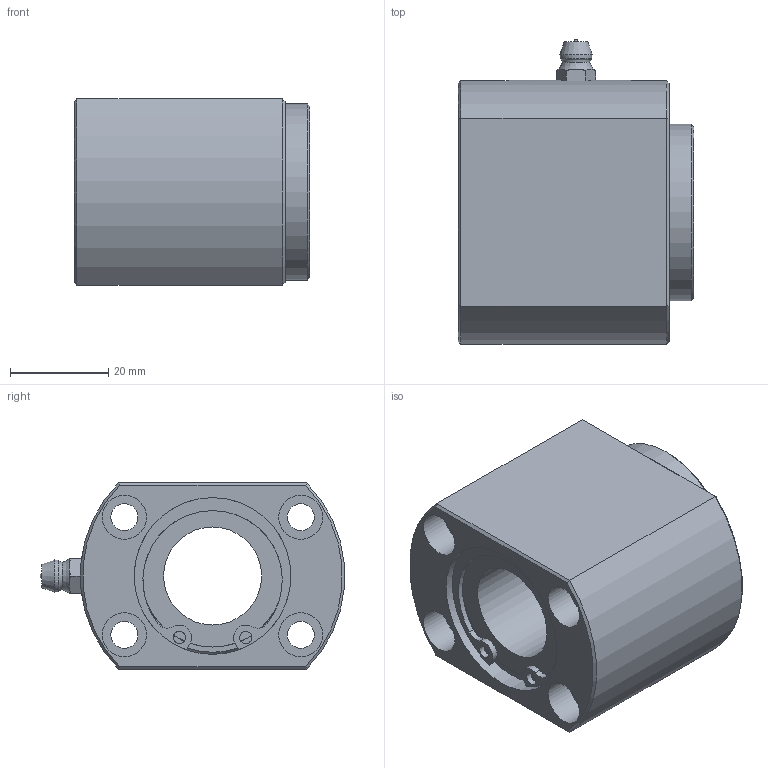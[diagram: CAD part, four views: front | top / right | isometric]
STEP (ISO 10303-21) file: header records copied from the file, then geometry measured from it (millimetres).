
FILE_DESCRIPTION((''),'2;1');
FILE_NAME('D:\製品 (図面)\カタログ用3D\リニアベアリング関連(改)\STEP形式\CTB\CTB20.stp','2010-01-25T09:47:06',('Tsuchiya'),(''),'Autodesk Inventor 10','Autodesk Inventor 10','');
FILE_SCHEMA(('AUTOMOTIVE_DESIGN { 1 0 10303 214 1 1 1 1 }'));
Length unit declared in the file: millimetre
Products named in the file (1): CTB20
Bounding box: 48 x 62.2 x 38 mm (x, y, z)
Volume: 62571.7 mm3; surface area: 18569.8 mm2
Topology: 1 solids, 3 shells, 103 faces, 256 edges, 158 vertices
Faces by surface type: plane 44, cylinder 27, bspline 16, cone 12, sphere 2, torus 2
Full cylindrical faces by diameter (mm): 2.5 x2, 5.5 x4, 9 x4, 20 x1, 29 x2, 30.3 x2, 32 x4, 36 x1
Entity records: 2936 total; most frequent: CARTESIAN_POINT 700, DIRECTION 486, ORIENTED_EDGE 402, AXIS2_PLACEMENT_3D 217, EDGE_CURVE 201, EDGE_LOOP 162, VERTEX_POINT 137, CIRCLE 125
